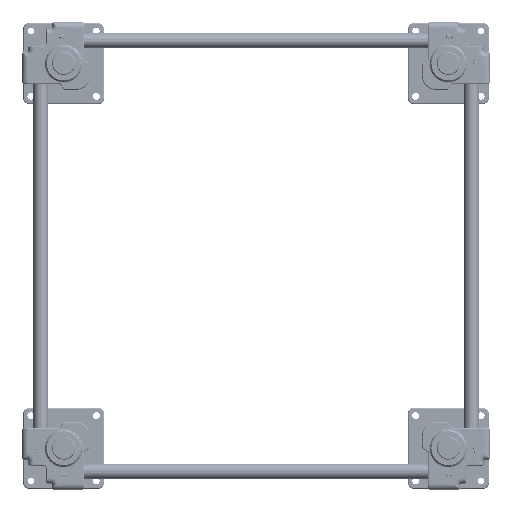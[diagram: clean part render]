
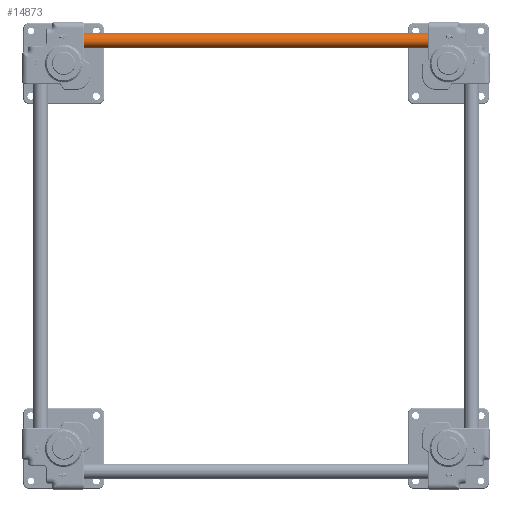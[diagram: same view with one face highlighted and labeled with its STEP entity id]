
A CAD part, top view. The second image highlights one B-rep face of the part: STEP entity #14873.
In plain terms, the highlighted cylindrical face has radius 20 mm (diameter 40 mm), a full revolution.
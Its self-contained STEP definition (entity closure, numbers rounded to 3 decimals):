
#14873=ADVANCED_FACE('',(#36105,#36106),#36107,.T.);
#36105=FACE_OUTER_BOUND('',#62450,.T.);
#36106=FACE_OUTER_BOUND('',#62451,.T.);
#36107=CYLINDRICAL_SURFACE('',#62452,20.0);
#62450=EDGE_LOOP('',(#145536));
#62451=EDGE_LOOP('',(#145537));
#62452=AXIS2_PLACEMENT_3D('',#145538,#145539,#145540);
#145536=ORIENTED_EDGE('',*,*,#172027,.T.);
#145537=ORIENTED_EDGE('',*,*,#172024,.T.);
#145538=CARTESIAN_POINT('',(0.0,0.0,1064.0));
#145539=DIRECTION('',(0.0,0.0,-1.0));
#145540=DIRECTION('',(-1.0,0.0,0.0));
#172024=EDGE_CURVE('',#215848,#215848,#215849,.F.);
#172027=EDGE_CURVE('',#215854,#215854,#215855,.T.);
#215848=VERTEX_POINT('',#290632);
#215849=CIRCLE('',#290633,20.0);
#215854=VERTEX_POINT('',#290638);
#215855=CIRCLE('',#290639,20.0);
#290632=CARTESIAN_POINT('',(20.0,0.0,1063.0));
#290633=AXIS2_PLACEMENT_3D('',#323632,#323633,#323634);
#290638=CARTESIAN_POINT('',(20.0,0.0,1.));
#290639=AXIS2_PLACEMENT_3D('',#323641,#323642,#323643);
#323632=CARTESIAN_POINT('',(0.0,0.0,1063.0));
#323633=DIRECTION('',(0.0,0.0,1.0));
#323634=DIRECTION('',(1.0,0.0,0.0));
#323641=CARTESIAN_POINT('',(0.0,0.0,1.));
#323642=DIRECTION('',(0.0,0.0,1.0));
#323643=DIRECTION('',(1.0,0.0,0.0));
